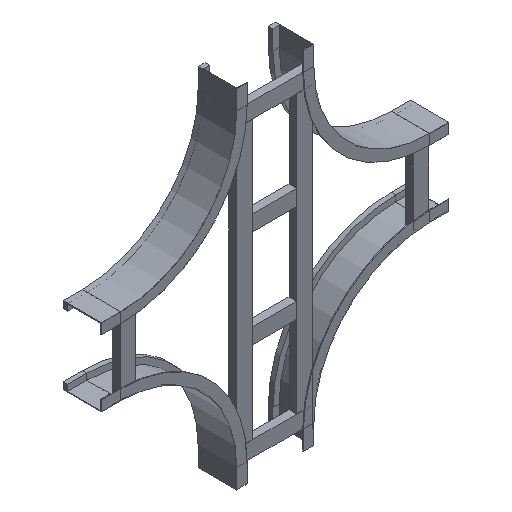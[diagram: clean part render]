
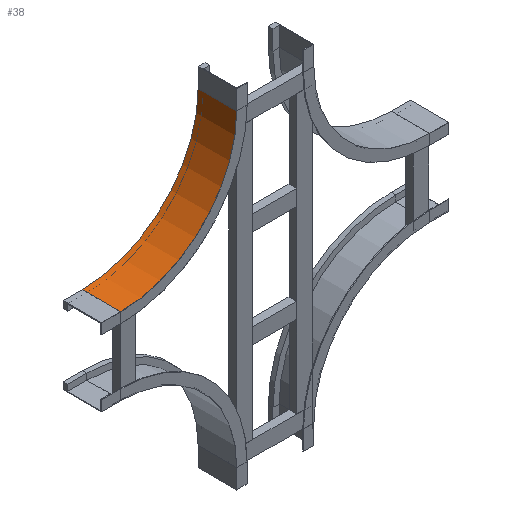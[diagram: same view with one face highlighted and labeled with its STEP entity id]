
A CAD part, isometric view. The second image highlights one B-rep face of the part: STEP entity #38.
In plain terms, the highlighted cylindrical face has radius 300 mm (diameter 600 mm), a partial arc.
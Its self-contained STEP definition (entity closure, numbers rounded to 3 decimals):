
#18 = EDGE_CURVE ( 'NONE', #1067, #114, #276, .T. ) ;
#38 = ADVANCED_FACE ( 'NONE', ( #494 ), #1158, .F. ) ;
#68 = DIRECTION ( 'NONE',  ( 0., 0., -1. ) ) ;
#71 = DIRECTION ( 'NONE',  ( 0., -1., 0. ) ) ;
#112 = CARTESIAN_POINT ( 'NONE',  ( 300., 100., -350. ) ) ;
#114 = VERTEX_POINT ( 'NONE', #112 ) ;
#139 = LINE ( 'NONE', #1114, #879 ) ;
#148 = ORIENTED_EDGE ( 'NONE', *, *, #929, .T. ) ;
#201 = VERTEX_POINT ( 'NONE', #858 ) ;
#258 = AXIS2_PLACEMENT_3D ( 'NONE', #1051, #1258, #68 ) ;
#276 = CIRCLE ( 'NONE', #830, 300. ) ;
#283 = CARTESIAN_POINT ( 'NONE',  ( 300., 100., -50. ) ) ;
#286 = ORIENTED_EDGE ( 'NONE', *, *, #1167, .T. ) ;
#378 = DIRECTION ( 'NONE',  ( 0., 1., 0. ) ) ;
#486 = CARTESIAN_POINT ( 'NONE',  ( 300., 0., -350. ) ) ;
#494 = FACE_OUTER_BOUND ( 'NONE', #1384, .T. ) ;
#506 = AXIS2_PLACEMENT_3D ( 'NONE', #924, #864, #764 ) ;
#507 = ORIENTED_EDGE ( 'NONE', *, *, #709, .F. ) ;
#594 = LINE ( 'NONE', #486, #1305 ) ;
#684 = CARTESIAN_POINT ( 'NONE',  ( 300., 0., -350. ) ) ;
#709 = EDGE_CURVE ( 'NONE', #201, #1067, #139, .T. ) ;
#764 = DIRECTION ( 'NONE',  ( -1., 0., 0. ) ) ;
#830 = AXIS2_PLACEMENT_3D ( 'NONE', #283, #71, #943 ) ;
#858 = CARTESIAN_POINT ( 'NONE',  ( 0., 0., -50. ) ) ;
#864 = DIRECTION ( 'NONE',  ( 0., -1., 0. ) ) ;
#879 = VECTOR ( 'NONE', #1232, 1000. ) ;
#885 = VERTEX_POINT ( 'NONE', #684 ) ;
#924 = CARTESIAN_POINT ( 'NONE',  ( 300., 0., -50. ) ) ;
#929 = EDGE_CURVE ( 'NONE', #885, #114, #594, .T. ) ;
#943 = DIRECTION ( 'NONE',  ( -1., 0., 0. ) ) ;
#963 = ORIENTED_EDGE ( 'NONE', *, *, #18, .F. ) ;
#1026 = CARTESIAN_POINT ( 'NONE',  ( 0., 100., -50. ) ) ;
#1051 = CARTESIAN_POINT ( 'NONE',  ( 300., 0., -50. ) ) ;
#1067 = VERTEX_POINT ( 'NONE', #1026 ) ;
#1114 = CARTESIAN_POINT ( 'NONE',  ( 0., 0., -50. ) ) ;
#1155 = CIRCLE ( 'NONE', #506, 300. ) ;
#1158 = CYLINDRICAL_SURFACE ( 'NONE', #258, 300. ) ;
#1167 = EDGE_CURVE ( 'NONE', #201, #885, #1155, .T. ) ;
#1232 = DIRECTION ( 'NONE',  ( 0., 1., 0. ) ) ;
#1258 = DIRECTION ( 'NONE',  ( 0., -1., 0. ) ) ;
#1305 = VECTOR ( 'NONE', #378, 1000. ) ;
#1384 = EDGE_LOOP ( 'NONE', ( #963, #507, #286, #148 ) ) ;
